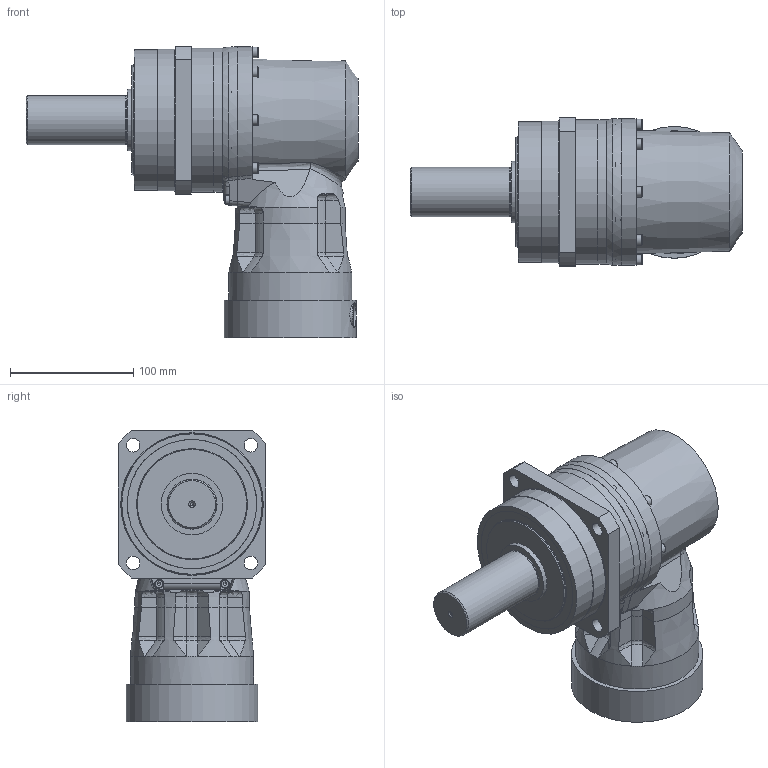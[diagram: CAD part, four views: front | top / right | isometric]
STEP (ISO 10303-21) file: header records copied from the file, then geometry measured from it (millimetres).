
FILE_DESCRIPTION(/* description */ ('ANFX-PK130N-3-M18G'),/* implementation_level */ '2;1');
FILE_NAME(/* name */ 'C:\Users\ADMINI~1\AppData\Local\Temp\MM582487_ANFX-PK130N-3-M18G.stp',/* time_stamp */ '2018-07-11T15:05:18+02:00',/* author */ ('Max'),/* organization */ (''),/* preprocessor_version */ 'ST-DEVELOPER v17',/* originating_system */ 'Autodesk Inventor 2018',/* authorisation */ '');
FILE_SCHEMA (('AUTOMOTIVE_DESIGN { 1 0 10303 214 3 1 1 }'));
Length unit declared in the file: millimetre
Products named in the file (24): MM581710; MMBG0004105; MMCM057LG; MMAF787LG; 5006008RS---G; MMAP6504G; 009M005R014NG; M530A406212--G; 211458; M214303; 200458; MMBG0004078; MMCL445LG; MMCM226LG; MAX4841G; MAW8388G; MMBG0004117; MMAF790LG; MMAP3262G; M009M004R022NG; 213890; 142791; MAW8794G; 204174
Assembly tree (48 placements, depth 3):
  MM581710
    MMBG0004105
      MMCM057LG
      MMAF787LG
      5006008RS---G
      MMAP6504G
      009M005R014NG
      M530A406212--G
      211458  x2
      M214303  x8
      200458  x7
    MMBG0004078
      MMCL445LG
      MMCM226LG
      MAX4841G
      MAW8388G
    MMBG0004117
      MMAF790LG
      MMAP3262G
      M009M004R022NG  x8
      213890  x2
    142791
    MAW8794G
    204174  x4
Bounding box: 269.5 x 120 x 236.7 mm (x, y, z)
Volume: 1649113.3 mm3; surface area: 431775.3 mm2
Topology: 104 solids, 105 shells, 1114 faces, 3092 edges, 2168 vertices
Faces by surface type: plane 511, cylinder 291, cone 128, torus 65, bspline 61, sphere 58
Full cylindrical faces by diameter (mm): 2.5 x1, 3.242 x12, 4 x11, 4.134 x16, 4.5 x18, 4.917 x12, 5 x16, 5.5 x16, 6 x4, 6.6 x4, 7 x10, 8 x8, 8.5 x16, 8.566 x2, 10 x4, 11 x8, 15 x3, 15.2 x1, 15.6 x1, 18 x1, 20 x1, 20.5 x1, 28 x1, 35 x1, 37 x1, 38 x1, 39.4 x1, 39.6 x1, 40 x3, 42 x1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
Entity records: 27454 total; most frequent: CARTESIAN_POINT 6363, DIRECTION 4486, ORIENTED_EDGE 3968, EDGE_CURVE 1984, AXIS2_PLACEMENT_3D 1905, VERTEX_POINT 1497, CIRCLE 1089, EDGE_LOOP 999
